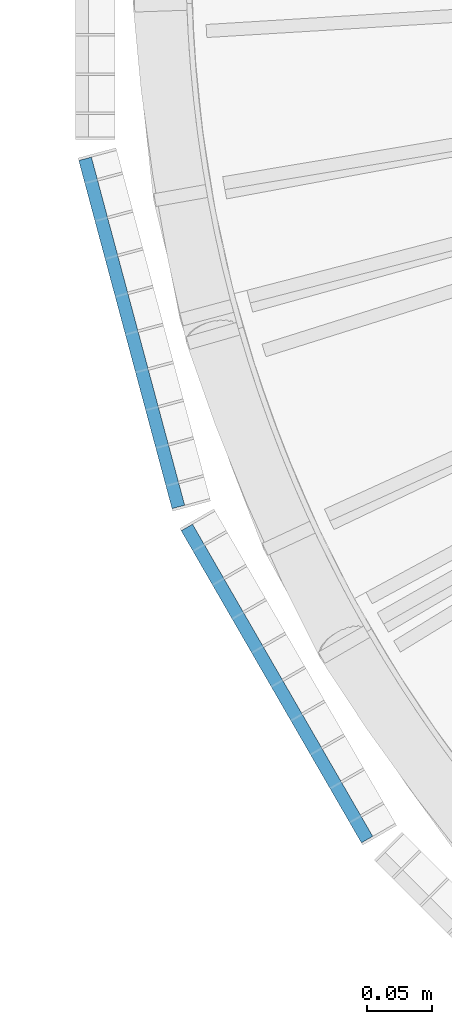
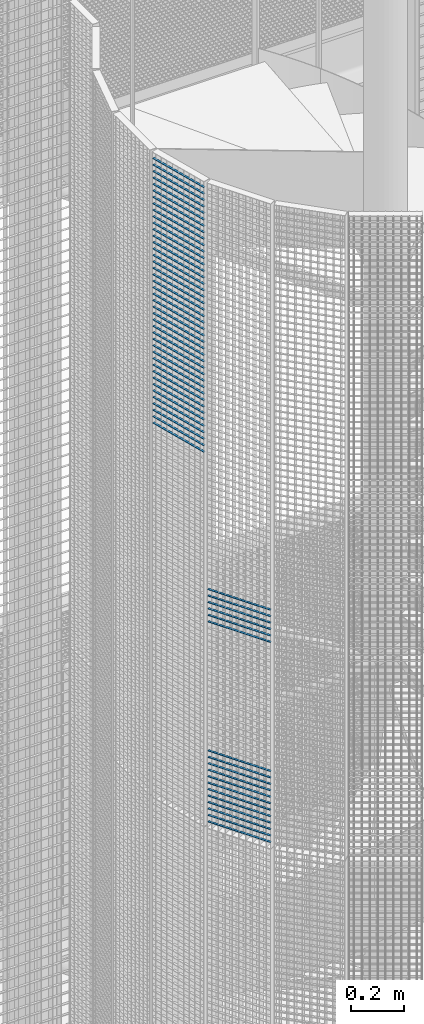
# One storey, part 106 of 1148: 60 beams, 2 elements without a shape of their own.
"""IFC2X3 building model written with IfcOpenShell, lengths in millimetres."""

from ifc_helpers import new_model, si_unit, frame, origin_with_axes, origin_2d_with_axis, place, context, subcontext, project, spatial, rectangle, extrude, material, type_object, element, aggregate, save


model = new_model("IFC2X3")

# Units and contexts
model_context = context("Model", 3, precision=1e-05, world=origin_with_axes())
body_context = subcontext(model_context, "Body", "Model", "MODEL_VIEW")
ifc_project = project(units=[si_unit("LENGTHUNIT", "METRE", prefix="MILLI"), si_unit("AREAUNIT", "SQUARE_METRE"), si_unit("VOLUMEUNIT", "CUBIC_METRE"), si_unit("MASSUNIT", "GRAM", prefix="KILO"), si_unit("TIMEUNIT", "SECOND"), si_unit("PLANEANGLEUNIT", "RADIAN"), si_unit("SOLIDANGLEUNIT", "STERADIAN"), si_unit("THERMODYNAMICTEMPERATUREUNIT", "DEGREE_CELSIUS"), si_unit("LUMINOUSINTENSITYUNIT", "LUMEN")], contexts=[model_context])

# Site, building, storey
site_placement = place(None, origin_with_axes())
site = spatial("IfcSite", under=ifc_project, at=site_placement, Name="Undefined", CompositionType="ELEMENT")
building_placement = place(site_placement, origin_with_axes())
building = spatial("IfcBuilding", under=site, at=building_placement, Name="Undefined", CompositionType="ELEMENT")
storey_placement = place(building_placement, origin_with_axes())
storey = spatial("IfcBuildingStorey", under=building, at=storey_placement, Name="Undefined", CompositionType="ELEMENT", Elevation=0.0)

# Assembly, beams
assembly_1_placement = place(storey_placement, origin_with_axes())
assembly_1 = element("IfcElementAssembly", 1, at=assembly_1_placement, inside=storey, Name="BORDURE", AssemblyPlace="NOTDEFINED", PredefinedType="NOTDEFINED")
ifc_material = material(Name="STEEL/S235JR")
beam_type = type_object("IfcBeamType", Name="PL2*10", PredefinedType="NOTDEFINED")
beam_1_placement = place(assembly_1_placement, frame((-1033.29996828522, -437.231955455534, 15360.0), z_axis=(-0.866025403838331, -0.499999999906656, 0.0), x_axis=(0.499999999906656, -0.866025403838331, 0.0)))
beam_1 = element("IfcBeam", 2, at=beam_1_placement, type_object=beam_type, material=ifc_material, Name="ENTRETOISE", context=body_context, shape_type="SweptSolid", body=[
    extrude(rectangle(XDim=2.0, YDim=10.0, at=origin_2d_with_axis()), frame((275.999999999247, 9.09494701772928e-13, 1.53210777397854e-14), z_axis=(-1.0, 0.0, 0.0), x_axis=(0.0, -1.0, 0.0)), (0.0, 0.0, 1.0), 276.0),
])
beam_2_placement = place(assembly_1_placement, frame((-1033.29996828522, -437.231955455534, 15330.0), z_axis=(-0.866025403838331, -0.499999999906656, 0.0), x_axis=(0.499999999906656, -0.866025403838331, 0.0)))
beam_2 = element("IfcBeam", 3, at=beam_2_placement, type_object=beam_type, material=ifc_material, Name="ENTRETOISE", context=body_context, shape_type="SweptSolid", body=[
    extrude(rectangle(XDim=2.0, YDim=10.0, at=origin_2d_with_axis()), frame((275.999999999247, 9.09494701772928e-13, 1.53210777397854e-14), z_axis=(-1.0, 0.0, 0.0), x_axis=(0.0, -1.0, 0.0)), (0.0, 0.0, 1.0), 276.0),
])
beam_3_placement = place(assembly_1_placement, frame((-1033.29996828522, -437.231955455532, 15960.0), z_axis=(-0.866025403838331, -0.499999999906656, 0.0), x_axis=(0.499999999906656, -0.866025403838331, 0.0)))
beam_3 = element("IfcBeam", 4, at=beam_3_placement, type_object=beam_type, material=ifc_material, Name="ENTRETOISE", context=body_context, shape_type="SweptSolid", body=[
    extrude(rectangle(XDim=2.0, YDim=10.0, at=origin_2d_with_axis()), frame((275.999999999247, 9.09494701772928e-13, 1.53210777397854e-14), z_axis=(-1.0, 0.0, 0.0), x_axis=(0.0, -1.0, 0.0)), (0.0, 0.0, 1.0), 276.0),
])
beam_4_placement = place(assembly_1_placement, frame((-1033.29996828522, -437.231955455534, 15300.0), z_axis=(-0.866025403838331, -0.499999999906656, 0.0), x_axis=(0.499999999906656, -0.866025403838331, 0.0)))
beam_4 = element("IfcBeam", 5, at=beam_4_placement, type_object=beam_type, material=ifc_material, Name="ENTRETOISE", context=body_context, shape_type="SweptSolid", body=[
    extrude(rectangle(XDim=2.0, YDim=10.0, at=origin_2d_with_axis()), frame((275.999999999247, 9.09494701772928e-13, 1.53210777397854e-14), z_axis=(-1.0, 0.0, 0.0), x_axis=(0.0, -1.0, 0.0)), (0.0, 0.0, 1.0), 276.0),
])
beam_5_placement = place(assembly_1_placement, frame((-1033.29996828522, -437.231955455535, 15270.0), z_axis=(-0.866025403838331, -0.499999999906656, 0.0), x_axis=(0.499999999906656, -0.866025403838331, 0.0)))
beam_5 = element("IfcBeam", 6, at=beam_5_placement, type_object=beam_type, material=ifc_material, Name="ENTRETOISE", context=body_context, shape_type="SweptSolid", body=[
    extrude(rectangle(XDim=2.0, YDim=10.0, at=origin_2d_with_axis()), frame((275.999999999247, 9.09494701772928e-13, 1.53210777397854e-14), z_axis=(-1.0, 0.0, 0.0), x_axis=(0.0, -1.0, 0.0)), (0.0, 0.0, 1.0), 276.0),
])
beam_6_placement = place(assembly_1_placement, frame((-1033.29996828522, -437.231955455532, 15990.0), z_axis=(-0.866025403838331, -0.499999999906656, 0.0), x_axis=(0.499999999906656, -0.866025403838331, 0.0)))
beam_6 = element("IfcBeam", 7, at=beam_6_placement, type_object=beam_type, material=ifc_material, Name="ENTRETOISE", context=body_context, shape_type="SweptSolid", body=[
    extrude(rectangle(XDim=2.0, YDim=10.0, at=origin_2d_with_axis()), frame((275.999999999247, 9.09494701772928e-13, 1.53210777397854e-14), z_axis=(-1.0, 0.0, 0.0), x_axis=(0.0, -1.0, 0.0)), (0.0, 0.0, 1.0), 276.0),
])
beam_7_placement = place(assembly_1_placement, frame((-1033.29996828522, -437.231955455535, 15240.0), z_axis=(-0.866025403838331, -0.499999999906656, 0.0), x_axis=(0.499999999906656, -0.866025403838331, 0.0)))
beam_7 = element("IfcBeam", 8, at=beam_7_placement, type_object=beam_type, material=ifc_material, Name="ENTRETOISE", context=body_context, shape_type="SweptSolid", body=[
    extrude(rectangle(XDim=2.0, YDim=10.0, at=origin_2d_with_axis()), frame((275.999999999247, 9.09494701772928e-13, 1.53210777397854e-14), z_axis=(-1.0, 0.0, 0.0), x_axis=(0.0, -1.0, 0.0)), (0.0, 0.0, 1.0), 276.0),
])
beam_8_placement = place(assembly_1_placement, frame((-1033.29996828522, -437.231955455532, 16020.0), z_axis=(-0.866025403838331, -0.499999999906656, 0.0), x_axis=(0.499999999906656, -0.866025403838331, 0.0)))
beam_8 = element("IfcBeam", 9, at=beam_8_placement, type_object=beam_type, material=ifc_material, Name="ENTRETOISE", context=body_context, shape_type="SweptSolid", body=[
    extrude(rectangle(XDim=2.0, YDim=10.0, at=origin_2d_with_axis()), frame((275.999999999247, 9.09494701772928e-13, 1.53210777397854e-14), z_axis=(-1.0, 0.0, 0.0), x_axis=(0.0, -1.0, 0.0)), (0.0, 0.0, 1.0), 276.0),
])
beam_9_placement = place(assembly_1_placement, frame((-1033.29996828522, -437.231955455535, 15210.0), z_axis=(-0.866025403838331, -0.499999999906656, 0.0), x_axis=(0.499999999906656, -0.866025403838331, 0.0)))
beam_9 = element("IfcBeam", 10, at=beam_9_placement, type_object=beam_type, material=ifc_material, Name="ENTRETOISE", context=body_context, shape_type="SweptSolid", body=[
    extrude(rectangle(XDim=2.0, YDim=10.0, at=origin_2d_with_axis()), frame((275.999999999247, 9.09494701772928e-13, 1.53210777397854e-14), z_axis=(-1.0, 0.0, 0.0), x_axis=(0.0, -1.0, 0.0)), (0.0, 0.0, 1.0), 276.0),
])
beam_10_placement = place(assembly_1_placement, frame((-1033.29996828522, -437.231955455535, 15180.0), z_axis=(-0.866025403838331, -0.499999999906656, 0.0), x_axis=(0.499999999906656, -0.866025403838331, 0.0)))
beam_10 = element("IfcBeam", 11, at=beam_10_placement, type_object=beam_type, material=ifc_material, Name="ENTRETOISE", context=body_context, shape_type="SweptSolid", body=[
    extrude(rectangle(XDim=2.0, YDim=10.0, at=origin_2d_with_axis()), frame((275.999999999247, 9.09494701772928e-13, 1.53210777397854e-14), z_axis=(-1.0, 0.0, 0.0), x_axis=(0.0, -1.0, 0.0)), (0.0, 0.0, 1.0), 276.0),
])
beam_11_placement = place(assembly_1_placement, frame((-1033.29996828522, -437.231955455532, 16050.0), z_axis=(-0.866025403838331, -0.499999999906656, 0.0), x_axis=(0.499999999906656, -0.866025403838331, 0.0)))
beam_11 = element("IfcBeam", 12, at=beam_11_placement, type_object=beam_type, material=ifc_material, Name="ENTRETOISE", context=body_context, shape_type="SweptSolid", body=[
    extrude(rectangle(XDim=2.0, YDim=10.0, at=origin_2d_with_axis()), frame((275.999999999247, 9.09494701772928e-13, 1.53210777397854e-14), z_axis=(-1.0, 0.0, 0.0), x_axis=(0.0, -1.0, 0.0)), (0.0, 0.0, 1.0), 276.0),
])
beam_12_placement = place(assembly_1_placement, frame((-1033.29996828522, -437.231955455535, 15150.0), z_axis=(-0.866025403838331, -0.499999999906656, 0.0), x_axis=(0.499999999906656, -0.866025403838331, 0.0)))
beam_12 = element("IfcBeam", 13, at=beam_12_placement, type_object=beam_type, material=ifc_material, Name="ENTRETOISE", context=body_context, shape_type="SweptSolid", body=[
    extrude(rectangle(XDim=2.0, YDim=10.0, at=origin_2d_with_axis()), frame((275.999999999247, 9.09494701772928e-13, 1.53210777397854e-14), z_axis=(-1.0, 0.0, 0.0), x_axis=(0.0, -1.0, 0.0)), (0.0, 0.0, 1.0), 276.0),
])
beam_13_placement = place(assembly_1_placement, frame((-1033.29996828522, -437.231955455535, 15120.0), z_axis=(-0.866025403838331, -0.499999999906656, 0.0), x_axis=(0.499999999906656, -0.866025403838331, 0.0)))
beam_13 = element("IfcBeam", 14, at=beam_13_placement, type_object=beam_type, material=ifc_material, Name="ENTRETOISE", context=body_context, shape_type="SweptSolid", body=[
    extrude(rectangle(XDim=2.0, YDim=10.0, at=origin_2d_with_axis()), frame((275.999999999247, 9.09494701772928e-13, 1.53210777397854e-14), z_axis=(-1.0, 0.0, 0.0), x_axis=(0.0, -1.0, 0.0)), (0.0, 0.0, 1.0), 276.0),
])
beam_14_placement = place(assembly_1_placement, frame((-1033.29996828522, -437.231955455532, 16080.0), z_axis=(-0.866025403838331, -0.499999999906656, 0.0), x_axis=(0.499999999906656, -0.866025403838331, 0.0)))
beam_14 = element("IfcBeam", 15, at=beam_14_placement, type_object=beam_type, material=ifc_material, Name="ENTRETOISE", context=body_context, shape_type="SweptSolid", body=[
    extrude(rectangle(XDim=2.0, YDim=10.0, at=origin_2d_with_axis()), frame((275.999999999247, 9.09494701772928e-13, 1.53210777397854e-14), z_axis=(-1.0, 0.0, 0.0), x_axis=(0.0, -1.0, 0.0)), (0.0, 0.0, 1.0), 276.0),
])
beam_15_placement = place(assembly_1_placement, frame((-1033.29996828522, -437.231955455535, 15090.0), z_axis=(-0.866025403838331, -0.499999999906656, 0.0), x_axis=(0.499999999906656, -0.866025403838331, 0.0)))
beam_15 = element("IfcBeam", 16, at=beam_15_placement, type_object=beam_type, material=ifc_material, Name="ENTRETOISE", context=body_context, shape_type="SweptSolid", body=[
    extrude(rectangle(XDim=2.0, YDim=10.0, at=origin_2d_with_axis()), frame((275.999999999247, 9.09494701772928e-13, 1.53210777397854e-14), z_axis=(-1.0, 0.0, 0.0), x_axis=(0.0, -1.0, 0.0)), (0.0, 0.0, 1.0), 276.0),
])
beam_16_placement = place(assembly_1_placement, frame((-1033.29996828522, -437.231955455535, 15060.0), z_axis=(-0.866025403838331, -0.499999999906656, 0.0), x_axis=(0.499999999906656, -0.866025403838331, 0.0)))
beam_16 = element("IfcBeam", 17, at=beam_16_placement, type_object=beam_type, material=ifc_material, Name="ENTRETOISE", context=body_context, shape_type="SweptSolid", body=[
    extrude(rectangle(XDim=2.0, YDim=10.0, at=origin_2d_with_axis()), frame((275.999999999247, 9.09494701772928e-13, 1.53210777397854e-14), z_axis=(-1.0, 0.0, 0.0), x_axis=(0.0, -1.0, 0.0)), (0.0, 0.0, 1.0), 276.0),
])
beam_17_placement = place(assembly_1_placement, frame((-1033.29996828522, -437.231955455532, 16110.0), z_axis=(-0.866025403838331, -0.499999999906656, 0.0), x_axis=(0.499999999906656, -0.866025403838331, 0.0)))
beam_17 = element("IfcBeam", 18, at=beam_17_placement, type_object=beam_type, material=ifc_material, Name="ENTRETOISE", context=body_context, shape_type="SweptSolid", body=[
    extrude(rectangle(XDim=2.0, YDim=10.0, at=origin_2d_with_axis()), frame((275.999999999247, 9.09494701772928e-13, 1.53210777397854e-14), z_axis=(-1.0, 0.0, 0.0), x_axis=(0.0, -1.0, 0.0)), (0.0, 0.0, 1.0), 276.0),
])
beam_18_placement = place(assembly_1_placement, frame((-1033.29996828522, -437.231955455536, 15030.0), z_axis=(-0.866025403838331, -0.499999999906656, 0.0), x_axis=(0.499999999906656, -0.866025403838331, 0.0)))
beam_18 = element("IfcBeam", 19, at=beam_18_placement, type_object=beam_type, material=ifc_material, Name="ENTRETOISE", context=body_context, shape_type="SweptSolid", body=[
    extrude(rectangle(XDim=2.0, YDim=10.0, at=origin_2d_with_axis()), frame((275.999999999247, 9.09494701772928e-13, 1.53210777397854e-14), z_axis=(-1.0, 0.0, 0.0), x_axis=(0.0, -1.0, 0.0)), (0.0, 0.0, 1.0), 276.0),
])
aggregate(assembly_1, [beam_1, beam_2, beam_3, beam_4, beam_5, beam_6, beam_7, beam_8, beam_9, beam_10, beam_11, beam_12, beam_13, beam_14, beam_15, beam_16, beam_17, beam_18])

assembly_2_placement = place(storey_placement, origin_with_axes())
assembly_2 = element("IfcElementAssembly", 20, at=assembly_2_placement, inside=storey, Name="BORDURE", AssemblyPlace="NOTDEFINED", PredefinedType="NOTDEFINED")
beam_19_placement = place(assembly_2_placement, frame((-1111.25508286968, -154.895926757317, 17970.0), z_axis=(-0.965925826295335, -0.258819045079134, 0.0), x_axis=(0.258819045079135, -0.965925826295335, 0.0)))
beam_19 = element("IfcBeam", 21, at=beam_19_placement, type_object=beam_type, material=ifc_material, Name="ENTRETOISE", context=body_context, shape_type="SweptSolid", body=[
    extrude(rectangle(XDim=2.0, YDim=10.0, at=origin_2d_with_axis()), frame((275.999999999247, 9.09494701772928e-13, 1.53210777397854e-14), z_axis=(-1.0, 0.0, 0.0), x_axis=(0.0, -1.0, 0.0)), (0.0, 0.0, 1.0), 276.0),
])
beam_20_placement = place(assembly_2_placement, frame((-1111.25508286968, -154.895926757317, 17940.0), z_axis=(-0.965925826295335, -0.258819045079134, 0.0), x_axis=(0.258819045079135, -0.965925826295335, 0.0)))
beam_20 = element("IfcBeam", 22, at=beam_20_placement, type_object=beam_type, material=ifc_material, Name="ENTRETOISE", context=body_context, shape_type="SweptSolid", body=[
    extrude(rectangle(XDim=2.0, YDim=10.0, at=origin_2d_with_axis()), frame((275.999999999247, 9.09494701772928e-13, 1.53210777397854e-14), z_axis=(-1.0, 0.0, 0.0), x_axis=(0.0, -1.0, 0.0)), (0.0, 0.0, 1.0), 276.0),
])
beam_21_placement = place(assembly_2_placement, frame((-1111.25508286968, -154.895926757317, 17910.0), z_axis=(-0.965925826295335, -0.258819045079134, 0.0), x_axis=(0.258819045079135, -0.965925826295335, 0.0)))
beam_21 = element("IfcBeam", 23, at=beam_21_placement, type_object=beam_type, material=ifc_material, Name="ENTRETOISE", context=body_context, shape_type="SweptSolid", body=[
    extrude(rectangle(XDim=2.0, YDim=10.0, at=origin_2d_with_axis()), frame((275.999999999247, 9.09494701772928e-13, 1.53210777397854e-14), z_axis=(-1.0, 0.0, 0.0), x_axis=(0.0, -1.0, 0.0)), (0.0, 0.0, 1.0), 276.0),
])
beam_22_placement = place(assembly_2_placement, frame((-1111.25508286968, -154.895926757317, 17880.0), z_axis=(-0.965925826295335, -0.258819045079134, 0.0), x_axis=(0.258819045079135, -0.965925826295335, 0.0)))
beam_22 = element("IfcBeam", 24, at=beam_22_placement, type_object=beam_type, material=ifc_material, Name="ENTRETOISE", context=body_context, shape_type="SweptSolid", body=[
    extrude(rectangle(XDim=2.0, YDim=10.0, at=origin_2d_with_axis()), frame((275.999999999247, 9.09494701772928e-13, 1.53210777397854e-14), z_axis=(-1.0, 0.0, 0.0), x_axis=(0.0, -1.0, 0.0)), (0.0, 0.0, 1.0), 276.0),
])
beam_23_placement = place(assembly_2_placement, frame((-1111.25508286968, -154.895926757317, 17850.0), z_axis=(-0.965925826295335, -0.258819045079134, 0.0), x_axis=(0.258819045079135, -0.965925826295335, 0.0)))
beam_23 = element("IfcBeam", 25, at=beam_23_placement, type_object=beam_type, material=ifc_material, Name="ENTRETOISE", context=body_context, shape_type="SweptSolid", body=[
    extrude(rectangle(XDim=2.0, YDim=10.0, at=origin_2d_with_axis()), frame((275.999999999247, 9.09494701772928e-13, 1.53210777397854e-14), z_axis=(-1.0, 0.0, 0.0), x_axis=(0.0, -1.0, 0.0)), (0.0, 0.0, 1.0), 276.0),
])
beam_24_placement = place(assembly_2_placement, frame((-1111.25508286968, -154.895926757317, 17820.0), z_axis=(-0.965925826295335, -0.258819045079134, 0.0), x_axis=(0.258819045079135, -0.965925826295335, 0.0)))
beam_24 = element("IfcBeam", 26, at=beam_24_placement, type_object=beam_type, material=ifc_material, Name="ENTRETOISE", context=body_context, shape_type="SweptSolid", body=[
    extrude(rectangle(XDim=2.0, YDim=10.0, at=origin_2d_with_axis()), frame((275.999999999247, 9.09494701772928e-13, 1.53210777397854e-14), z_axis=(-1.0, 0.0, 0.0), x_axis=(0.0, -1.0, 0.0)), (0.0, 0.0, 1.0), 276.0),
])
beam_25_placement = place(assembly_2_placement, frame((-1111.25508286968, -154.895926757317, 17790.0), z_axis=(-0.965925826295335, -0.258819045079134, 0.0), x_axis=(0.258819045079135, -0.965925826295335, 0.0)))
beam_25 = element("IfcBeam", 27, at=beam_25_placement, type_object=beam_type, material=ifc_material, Name="ENTRETOISE", context=body_context, shape_type="SweptSolid", body=[
    extrude(rectangle(XDim=2.0, YDim=10.0, at=origin_2d_with_axis()), frame((275.999999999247, 9.09494701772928e-13, 1.53210777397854e-14), z_axis=(-1.0, 0.0, 0.0), x_axis=(0.0, -1.0, 0.0)), (0.0, 0.0, 1.0), 276.0),
])
beam_26_placement = place(assembly_2_placement, frame((-1111.25508286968, -154.895926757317, 17760.0), z_axis=(-0.965925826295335, -0.258819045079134, 0.0), x_axis=(0.258819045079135, -0.965925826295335, 0.0)))
beam_26 = element("IfcBeam", 28, at=beam_26_placement, type_object=beam_type, material=ifc_material, Name="ENTRETOISE", context=body_context, shape_type="SweptSolid", body=[
    extrude(rectangle(XDim=2.0, YDim=10.0, at=origin_2d_with_axis()), frame((275.999999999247, 9.09494701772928e-13, 1.53210777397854e-14), z_axis=(-1.0, 0.0, 0.0), x_axis=(0.0, -1.0, 0.0)), (0.0, 0.0, 1.0), 276.0),
])
beam_27_placement = place(assembly_2_placement, frame((-1111.25508286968, -154.895926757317, 17730.0), z_axis=(-0.965925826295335, -0.258819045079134, 0.0), x_axis=(0.258819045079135, -0.965925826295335, 0.0)))
beam_27 = element("IfcBeam", 29, at=beam_27_placement, type_object=beam_type, material=ifc_material, Name="ENTRETOISE", context=body_context, shape_type="SweptSolid", body=[
    extrude(rectangle(XDim=2.0, YDim=10.0, at=origin_2d_with_axis()), frame((275.999999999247, 9.09494701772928e-13, 1.53210777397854e-14), z_axis=(-1.0, 0.0, 0.0), x_axis=(0.0, -1.0, 0.0)), (0.0, 0.0, 1.0), 276.0),
])
beam_28_placement = place(assembly_2_placement, frame((-1111.25508286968, -154.895926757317, 17700.0), z_axis=(-0.965925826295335, -0.258819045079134, 0.0), x_axis=(0.258819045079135, -0.965925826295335, 0.0)))
beam_28 = element("IfcBeam", 30, at=beam_28_placement, type_object=beam_type, material=ifc_material, Name="ENTRETOISE", context=body_context, shape_type="SweptSolid", body=[
    extrude(rectangle(XDim=2.0, YDim=10.0, at=origin_2d_with_axis()), frame((275.999999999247, 9.09494701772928e-13, 1.53210777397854e-14), z_axis=(-1.0, 0.0, 0.0), x_axis=(0.0, -1.0, 0.0)), (0.0, 0.0, 1.0), 276.0),
])
beam_29_placement = place(assembly_2_placement, frame((-1111.25508286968, -154.895926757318, 17670.0), z_axis=(-0.965925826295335, -0.258819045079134, 0.0), x_axis=(0.258819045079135, -0.965925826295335, 0.0)))
beam_29 = element("IfcBeam", 31, at=beam_29_placement, type_object=beam_type, material=ifc_material, Name="ENTRETOISE", context=body_context, shape_type="SweptSolid", body=[
    extrude(rectangle(XDim=2.0, YDim=10.0, at=origin_2d_with_axis()), frame((275.999999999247, 9.09494701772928e-13, 1.53210777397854e-14), z_axis=(-1.0, 0.0, 0.0), x_axis=(0.0, -1.0, 0.0)), (0.0, 0.0, 1.0), 276.0),
])
beam_30_placement = place(assembly_2_placement, frame((-1111.25508286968, -154.895926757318, 17640.0), z_axis=(-0.965925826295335, -0.258819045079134, 0.0), x_axis=(0.258819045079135, -0.965925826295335, 0.0)))
beam_30 = element("IfcBeam", 32, at=beam_30_placement, type_object=beam_type, material=ifc_material, Name="ENTRETOISE", context=body_context, shape_type="SweptSolid", body=[
    extrude(rectangle(XDim=2.0, YDim=10.0, at=origin_2d_with_axis()), frame((275.999999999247, 9.09494701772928e-13, 1.53210777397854e-14), z_axis=(-1.0, 0.0, 0.0), x_axis=(0.0, -1.0, 0.0)), (0.0, 0.0, 1.0), 276.0),
])
beam_31_placement = place(assembly_2_placement, frame((-1111.25508286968, -154.895926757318, 17610.0), z_axis=(-0.965925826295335, -0.258819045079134, 0.0), x_axis=(0.258819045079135, -0.965925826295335, 0.0)))
beam_31 = element("IfcBeam", 33, at=beam_31_placement, type_object=beam_type, material=ifc_material, Name="ENTRETOISE", context=body_context, shape_type="SweptSolid", body=[
    extrude(rectangle(XDim=2.0, YDim=10.0, at=origin_2d_with_axis()), frame((275.999999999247, 9.09494701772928e-13, 1.53210777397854e-14), z_axis=(-1.0, 0.0, 0.0), x_axis=(0.0, -1.0, 0.0)), (0.0, 0.0, 1.0), 276.0),
])
beam_32_placement = place(assembly_2_placement, frame((-1111.25508286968, -154.895926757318, 17580.0), z_axis=(-0.965925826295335, -0.258819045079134, 0.0), x_axis=(0.258819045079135, -0.965925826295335, 0.0)))
beam_32 = element("IfcBeam", 34, at=beam_32_placement, type_object=beam_type, material=ifc_material, Name="ENTRETOISE", context=body_context, shape_type="SweptSolid", body=[
    extrude(rectangle(XDim=2.0, YDim=10.0, at=origin_2d_with_axis()), frame((275.999999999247, 9.09494701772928e-13, 1.53210777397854e-14), z_axis=(-1.0, 0.0, 0.0), x_axis=(0.0, -1.0, 0.0)), (0.0, 0.0, 1.0), 276.0),
])
beam_33_placement = place(assembly_2_placement, frame((-1111.25508286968, -154.895926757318, 17550.0), z_axis=(-0.965925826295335, -0.258819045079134, 0.0), x_axis=(0.258819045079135, -0.965925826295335, 0.0)))
beam_33 = element("IfcBeam", 35, at=beam_33_placement, type_object=beam_type, material=ifc_material, Name="ENTRETOISE", context=body_context, shape_type="SweptSolid", body=[
    extrude(rectangle(XDim=2.0, YDim=10.0, at=origin_2d_with_axis()), frame((275.999999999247, 9.09494701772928e-13, 1.53210777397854e-14), z_axis=(-1.0, 0.0, 0.0), x_axis=(0.0, -1.0, 0.0)), (0.0, 0.0, 1.0), 276.0),
])
beam_34_placement = place(assembly_2_placement, frame((-1111.25508286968, -154.895926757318, 17520.0), z_axis=(-0.965925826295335, -0.258819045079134, 0.0), x_axis=(0.258819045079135, -0.965925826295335, 0.0)))
beam_34 = element("IfcBeam", 36, at=beam_34_placement, type_object=beam_type, material=ifc_material, Name="ENTRETOISE", context=body_context, shape_type="SweptSolid", body=[
    extrude(rectangle(XDim=2.0, YDim=10.0, at=origin_2d_with_axis()), frame((275.999999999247, 9.09494701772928e-13, 1.53210777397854e-14), z_axis=(-1.0, 0.0, 0.0), x_axis=(0.0, -1.0, 0.0)), (0.0, 0.0, 1.0), 276.0),
])
beam_35_placement = place(assembly_2_placement, frame((-1111.25508286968, -154.895926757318, 17490.0), z_axis=(-0.965925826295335, -0.258819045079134, 0.0), x_axis=(0.258819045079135, -0.965925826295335, 0.0)))
beam_35 = element("IfcBeam", 37, at=beam_35_placement, type_object=beam_type, material=ifc_material, Name="ENTRETOISE", context=body_context, shape_type="SweptSolid", body=[
    extrude(rectangle(XDim=2.0, YDim=10.0, at=origin_2d_with_axis()), frame((275.999999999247, 9.09494701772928e-13, 1.53210777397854e-14), z_axis=(-1.0, 0.0, 0.0), x_axis=(0.0, -1.0, 0.0)), (0.0, 0.0, 1.0), 276.0),
])
beam_36_placement = place(assembly_2_placement, frame((-1111.25508286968, -154.895926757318, 17460.0), z_axis=(-0.965925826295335, -0.258819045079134, 0.0), x_axis=(0.258819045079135, -0.965925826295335, 0.0)))
beam_36 = element("IfcBeam", 38, at=beam_36_placement, type_object=beam_type, material=ifc_material, Name="ENTRETOISE", context=body_context, shape_type="SweptSolid", body=[
    extrude(rectangle(XDim=2.0, YDim=10.0, at=origin_2d_with_axis()), frame((275.999999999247, 9.09494701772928e-13, 1.53210777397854e-14), z_axis=(-1.0, 0.0, 0.0), x_axis=(0.0, -1.0, 0.0)), (0.0, 0.0, 1.0), 276.0),
])
beam_37_placement = place(assembly_2_placement, frame((-1111.25508286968, -154.895926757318, 17430.0), z_axis=(-0.965925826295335, -0.258819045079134, 0.0), x_axis=(0.258819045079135, -0.965925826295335, 0.0)))
beam_37 = element("IfcBeam", 39, at=beam_37_placement, type_object=beam_type, material=ifc_material, Name="ENTRETOISE", context=body_context, shape_type="SweptSolid", body=[
    extrude(rectangle(XDim=2.0, YDim=10.0, at=origin_2d_with_axis()), frame((275.999999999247, 9.09494701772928e-13, 1.53210777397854e-14), z_axis=(-1.0, 0.0, 0.0), x_axis=(0.0, -1.0, 0.0)), (0.0, 0.0, 1.0), 276.0),
])
beam_38_placement = place(assembly_2_placement, frame((-1111.25508286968, -154.895926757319, 17400.0), z_axis=(-0.965925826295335, -0.258819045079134, 0.0), x_axis=(0.258819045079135, -0.965925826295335, 0.0)))
beam_38 = element("IfcBeam", 40, at=beam_38_placement, type_object=beam_type, material=ifc_material, Name="ENTRETOISE", context=body_context, shape_type="SweptSolid", body=[
    extrude(rectangle(XDim=2.0, YDim=10.0, at=origin_2d_with_axis()), frame((275.999999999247, 9.09494701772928e-13, 1.53210777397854e-14), z_axis=(-1.0, 0.0, 0.0), x_axis=(0.0, -1.0, 0.0)), (0.0, 0.0, 1.0), 276.0),
])
beam_39_placement = place(assembly_2_placement, frame((-1111.25508286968, -154.895926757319, 17370.0), z_axis=(-0.965925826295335, -0.258819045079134, 0.0), x_axis=(0.258819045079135, -0.965925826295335, 0.0)))
beam_39 = element("IfcBeam", 41, at=beam_39_placement, type_object=beam_type, material=ifc_material, Name="ENTRETOISE", context=body_context, shape_type="SweptSolid", body=[
    extrude(rectangle(XDim=2.0, YDim=10.0, at=origin_2d_with_axis()), frame((275.999999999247, 9.09494701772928e-13, 1.53210777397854e-14), z_axis=(-1.0, 0.0, 0.0), x_axis=(0.0, -1.0, 0.0)), (0.0, 0.0, 1.0), 276.0),
])
beam_40_placement = place(assembly_2_placement, frame((-1111.25508286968, -154.895926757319, 17340.0), z_axis=(-0.965925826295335, -0.258819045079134, 0.0), x_axis=(0.258819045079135, -0.965925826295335, 0.0)))
beam_40 = element("IfcBeam", 42, at=beam_40_placement, type_object=beam_type, material=ifc_material, Name="ENTRETOISE", context=body_context, shape_type="SweptSolid", body=[
    extrude(rectangle(XDim=2.0, YDim=10.0, at=origin_2d_with_axis()), frame((275.999999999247, 9.09494701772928e-13, 1.53210777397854e-14), z_axis=(-1.0, 0.0, 0.0), x_axis=(0.0, -1.0, 0.0)), (0.0, 0.0, 1.0), 276.0),
])
beam_41_placement = place(assembly_2_placement, frame((-1111.25508286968, -154.895926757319, 17310.0), z_axis=(-0.965925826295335, -0.258819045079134, 0.0), x_axis=(0.258819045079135, -0.965925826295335, 0.0)))
beam_41 = element("IfcBeam", 43, at=beam_41_placement, type_object=beam_type, material=ifc_material, Name="ENTRETOISE", context=body_context, shape_type="SweptSolid", body=[
    extrude(rectangle(XDim=2.0, YDim=10.0, at=origin_2d_with_axis()), frame((275.999999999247, 9.09494701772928e-13, 1.53210777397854e-14), z_axis=(-1.0, 0.0, 0.0), x_axis=(0.0, -1.0, 0.0)), (0.0, 0.0, 1.0), 276.0),
])
beam_42_placement = place(assembly_2_placement, frame((-1111.25508286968, -154.895926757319, 17280.0), z_axis=(-0.965925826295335, -0.258819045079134, 0.0), x_axis=(0.258819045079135, -0.965925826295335, 0.0)))
beam_42 = element("IfcBeam", 44, at=beam_42_placement, type_object=beam_type, material=ifc_material, Name="ENTRETOISE", context=body_context, shape_type="SweptSolid", body=[
    extrude(rectangle(XDim=2.0, YDim=10.0, at=origin_2d_with_axis()), frame((275.999999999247, 9.09494701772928e-13, 1.53210777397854e-14), z_axis=(-1.0, 0.0, 0.0), x_axis=(0.0, -1.0, 0.0)), (0.0, 0.0, 1.0), 276.0),
])
beam_43_placement = place(assembly_2_placement, frame((-1111.25508286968, -154.895926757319, 17250.0), z_axis=(-0.965925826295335, -0.258819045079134, 0.0), x_axis=(0.258819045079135, -0.965925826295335, 0.0)))
beam_43 = element("IfcBeam", 45, at=beam_43_placement, type_object=beam_type, material=ifc_material, Name="ENTRETOISE", context=body_context, shape_type="SweptSolid", body=[
    extrude(rectangle(XDim=2.0, YDim=10.0, at=origin_2d_with_axis()), frame((275.999999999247, 9.09494701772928e-13, 1.53210777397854e-14), z_axis=(-1.0, 0.0, 0.0), x_axis=(0.0, -1.0, 0.0)), (0.0, 0.0, 1.0), 276.0),
])
beam_44_placement = place(assembly_2_placement, frame((-1111.25508286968, -154.895926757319, 17220.0), z_axis=(-0.965925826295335, -0.258819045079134, 0.0), x_axis=(0.258819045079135, -0.965925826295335, 0.0)))
beam_44 = element("IfcBeam", 46, at=beam_44_placement, type_object=beam_type, material=ifc_material, Name="ENTRETOISE", context=body_context, shape_type="SweptSolid", body=[
    extrude(rectangle(XDim=2.0, YDim=10.0, at=origin_2d_with_axis()), frame((275.999999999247, 9.09494701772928e-13, 1.53210777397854e-14), z_axis=(-1.0, 0.0, 0.0), x_axis=(0.0, -1.0, 0.0)), (0.0, 0.0, 1.0), 276.0),
])
beam_45_placement = place(assembly_2_placement, frame((-1111.25508286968, -154.895926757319, 17190.0), z_axis=(-0.965925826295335, -0.258819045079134, 0.0), x_axis=(0.258819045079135, -0.965925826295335, 0.0)))
beam_45 = element("IfcBeam", 47, at=beam_45_placement, type_object=beam_type, material=ifc_material, Name="ENTRETOISE", context=body_context, shape_type="SweptSolid", body=[
    extrude(rectangle(XDim=2.0, YDim=10.0, at=origin_2d_with_axis()), frame((275.999999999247, 9.09494701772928e-13, 1.53210777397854e-14), z_axis=(-1.0, 0.0, 0.0), x_axis=(0.0, -1.0, 0.0)), (0.0, 0.0, 1.0), 276.0),
])
beam_46_placement = place(assembly_2_placement, frame((-1111.25508286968, -154.895926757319, 17160.0), z_axis=(-0.965925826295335, -0.258819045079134, 0.0), x_axis=(0.258819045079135, -0.965925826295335, 0.0)))
beam_46 = element("IfcBeam", 48, at=beam_46_placement, type_object=beam_type, material=ifc_material, Name="ENTRETOISE", context=body_context, shape_type="SweptSolid", body=[
    extrude(rectangle(XDim=2.0, YDim=10.0, at=origin_2d_with_axis()), frame((275.999999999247, 9.09494701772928e-13, 1.53210777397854e-14), z_axis=(-1.0, 0.0, 0.0), x_axis=(0.0, -1.0, 0.0)), (0.0, 0.0, 1.0), 276.0),
])
beam_47_placement = place(assembly_2_placement, frame((-1111.25508286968, -154.89592675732, 17130.0), z_axis=(-0.965925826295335, -0.258819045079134, 0.0), x_axis=(0.258819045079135, -0.965925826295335, 0.0)))
beam_47 = element("IfcBeam", 49, at=beam_47_placement, type_object=beam_type, material=ifc_material, Name="ENTRETOISE", context=body_context, shape_type="SweptSolid", body=[
    extrude(rectangle(XDim=2.0, YDim=10.0, at=origin_2d_with_axis()), frame((275.999999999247, 9.09494701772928e-13, 1.53210777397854e-14), z_axis=(-1.0, 0.0, 0.0), x_axis=(0.0, -1.0, 0.0)), (0.0, 0.0, 1.0), 276.0),
])
beam_48_placement = place(assembly_2_placement, frame((-1111.25508286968, -154.89592675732, 17100.0), z_axis=(-0.965925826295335, -0.258819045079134, 0.0), x_axis=(0.258819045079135, -0.965925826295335, 0.0)))
beam_48 = element("IfcBeam", 50, at=beam_48_placement, type_object=beam_type, material=ifc_material, Name="ENTRETOISE", context=body_context, shape_type="SweptSolid", body=[
    extrude(rectangle(XDim=2.0, YDim=10.0, at=origin_2d_with_axis()), frame((275.999999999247, 9.09494701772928e-13, 1.53210777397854e-14), z_axis=(-1.0, 0.0, 0.0), x_axis=(0.0, -1.0, 0.0)), (0.0, 0.0, 1.0), 276.0),
])
beam_49_placement = place(assembly_2_placement, frame((-1111.25508286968, -154.89592675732, 17070.0), z_axis=(-0.965925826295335, -0.258819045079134, 0.0), x_axis=(0.258819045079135, -0.965925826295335, 0.0)))
beam_49 = element("IfcBeam", 51, at=beam_49_placement, type_object=beam_type, material=ifc_material, Name="ENTRETOISE", context=body_context, shape_type="SweptSolid", body=[
    extrude(rectangle(XDim=2.0, YDim=10.0, at=origin_2d_with_axis()), frame((275.999999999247, 9.09494701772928e-13, 1.53210777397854e-14), z_axis=(-1.0, 0.0, 0.0), x_axis=(0.0, -1.0, 0.0)), (0.0, 0.0, 1.0), 276.0),
])
beam_50_placement = place(assembly_2_placement, frame((-1111.25508286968, -154.89592675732, 17040.0), z_axis=(-0.965925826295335, -0.258819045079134, 0.0), x_axis=(0.258819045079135, -0.965925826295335, 0.0)))
beam_50 = element("IfcBeam", 52, at=beam_50_placement, type_object=beam_type, material=ifc_material, Name="ENTRETOISE", context=body_context, shape_type="SweptSolid", body=[
    extrude(rectangle(XDim=2.0, YDim=10.0, at=origin_2d_with_axis()), frame((275.999999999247, 9.09494701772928e-13, 1.53210777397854e-14), z_axis=(-1.0, 0.0, 0.0), x_axis=(0.0, -1.0, 0.0)), (0.0, 0.0, 1.0), 276.0),
])
beam_51_placement = place(assembly_2_placement, frame((-1111.25508286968, -154.89592675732, 17010.0), z_axis=(-0.965925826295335, -0.258819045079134, 0.0), x_axis=(0.258819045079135, -0.965925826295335, 0.0)))
beam_51 = element("IfcBeam", 53, at=beam_51_placement, type_object=beam_type, material=ifc_material, Name="ENTRETOISE", context=body_context, shape_type="SweptSolid", body=[
    extrude(rectangle(XDim=2.0, YDim=10.0, at=origin_2d_with_axis()), frame((275.999999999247, 9.09494701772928e-13, 1.53210777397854e-14), z_axis=(-1.0, 0.0, 0.0), x_axis=(0.0, -1.0, 0.0)), (0.0, 0.0, 1.0), 276.0),
])
beam_52_placement = place(assembly_2_placement, frame((-1111.25508286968, -154.89592675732, 16980.0), z_axis=(-0.965925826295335, -0.258819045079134, 0.0), x_axis=(0.258819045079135, -0.965925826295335, 0.0)))
beam_52 = element("IfcBeam", 54, at=beam_52_placement, type_object=beam_type, material=ifc_material, Name="ENTRETOISE", context=body_context, shape_type="SweptSolid", body=[
    extrude(rectangle(XDim=2.0, YDim=10.0, at=origin_2d_with_axis()), frame((275.999999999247, 9.09494701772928e-13, 1.53210777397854e-14), z_axis=(-1.0, 0.0, 0.0), x_axis=(0.0, -1.0, 0.0)), (0.0, 0.0, 1.0), 276.0),
])
beam_53_placement = place(assembly_2_placement, frame((-1111.25508286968, -154.89592675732, 16950.0), z_axis=(-0.965925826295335, -0.258819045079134, 0.0), x_axis=(0.258819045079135, -0.965925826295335, 0.0)))
beam_53 = element("IfcBeam", 55, at=beam_53_placement, type_object=beam_type, material=ifc_material, Name="ENTRETOISE", context=body_context, shape_type="SweptSolid", body=[
    extrude(rectangle(XDim=2.0, YDim=10.0, at=origin_2d_with_axis()), frame((275.999999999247, 9.09494701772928e-13, 1.53210777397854e-14), z_axis=(-1.0, 0.0, 0.0), x_axis=(0.0, -1.0, 0.0)), (0.0, 0.0, 1.0), 276.0),
])
beam_54_placement = place(assembly_2_placement, frame((-1111.25508286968, -154.89592675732, 16920.0), z_axis=(-0.965925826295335, -0.258819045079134, 0.0), x_axis=(0.258819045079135, -0.965925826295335, 0.0)))
beam_54 = element("IfcBeam", 56, at=beam_54_placement, type_object=beam_type, material=ifc_material, Name="ENTRETOISE", context=body_context, shape_type="SweptSolid", body=[
    extrude(rectangle(XDim=2.0, YDim=10.0, at=origin_2d_with_axis()), frame((275.999999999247, 9.09494701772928e-13, 1.53210777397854e-14), z_axis=(-1.0, 0.0, 0.0), x_axis=(0.0, -1.0, 0.0)), (0.0, 0.0, 1.0), 276.0),
])
beam_55_placement = place(assembly_2_placement, frame((-1111.25508286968, -154.89592675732, 16890.0), z_axis=(-0.965925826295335, -0.258819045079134, 0.0), x_axis=(0.258819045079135, -0.965925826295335, 0.0)))
beam_55 = element("IfcBeam", 57, at=beam_55_placement, type_object=beam_type, material=ifc_material, Name="ENTRETOISE", context=body_context, shape_type="SweptSolid", body=[
    extrude(rectangle(XDim=2.0, YDim=10.0, at=origin_2d_with_axis()), frame((275.999999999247, 9.09494701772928e-13, 1.53210777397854e-14), z_axis=(-1.0, 0.0, 0.0), x_axis=(0.0, -1.0, 0.0)), (0.0, 0.0, 1.0), 276.0),
])
beam_56_placement = place(assembly_2_placement, frame((-1111.25508286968, -154.895926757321, 16860.0), z_axis=(-0.965925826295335, -0.258819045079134, 0.0), x_axis=(0.258819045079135, -0.965925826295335, 0.0)))
beam_56 = element("IfcBeam", 58, at=beam_56_placement, type_object=beam_type, material=ifc_material, Name="ENTRETOISE", context=body_context, shape_type="SweptSolid", body=[
    extrude(rectangle(XDim=2.0, YDim=10.0, at=origin_2d_with_axis()), frame((275.999999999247, 9.09494701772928e-13, 1.53210777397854e-14), z_axis=(-1.0, 0.0, 0.0), x_axis=(0.0, -1.0, 0.0)), (0.0, 0.0, 1.0), 276.0),
])
beam_57_placement = place(assembly_2_placement, frame((-1111.25508286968, -154.895926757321, 16830.0), z_axis=(-0.965925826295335, -0.258819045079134, 0.0), x_axis=(0.258819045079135, -0.965925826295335, 0.0)))
beam_57 = element("IfcBeam", 59, at=beam_57_placement, type_object=beam_type, material=ifc_material, Name="ENTRETOISE", context=body_context, shape_type="SweptSolid", body=[
    extrude(rectangle(XDim=2.0, YDim=10.0, at=origin_2d_with_axis()), frame((275.999999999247, 9.09494701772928e-13, 1.53210777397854e-14), z_axis=(-1.0, 0.0, 0.0), x_axis=(0.0, -1.0, 0.0)), (0.0, 0.0, 1.0), 276.0),
])
beam_58_placement = place(assembly_2_placement, frame((-1111.25508286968, -154.895926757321, 16800.0), z_axis=(-0.965925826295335, -0.258819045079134, 0.0), x_axis=(0.258819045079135, -0.965925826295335, 0.0)))
beam_58 = element("IfcBeam", 60, at=beam_58_placement, type_object=beam_type, material=ifc_material, Name="ENTRETOISE", context=body_context, shape_type="SweptSolid", body=[
    extrude(rectangle(XDim=2.0, YDim=10.0, at=origin_2d_with_axis()), frame((275.999999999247, 9.09494701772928e-13, 1.53210777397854e-14), z_axis=(-1.0, 0.0, 0.0), x_axis=(0.0, -1.0, 0.0)), (0.0, 0.0, 1.0), 276.0),
])
beam_59_placement = place(assembly_2_placement, frame((-1111.25508286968, -154.895926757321, 16770.0), z_axis=(-0.965925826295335, -0.258819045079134, 0.0), x_axis=(0.258819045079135, -0.965925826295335, 0.0)))
beam_59 = element("IfcBeam", 61, at=beam_59_placement, type_object=beam_type, material=ifc_material, Name="ENTRETOISE", context=body_context, shape_type="SweptSolid", body=[
    extrude(rectangle(XDim=2.0, YDim=10.0, at=origin_2d_with_axis()), frame((275.999999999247, 9.09494701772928e-13, 1.53210777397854e-14), z_axis=(-1.0, 0.0, 0.0), x_axis=(0.0, -1.0, 0.0)), (0.0, 0.0, 1.0), 276.0),
])
beam_60_placement = place(assembly_2_placement, frame((-1111.25508286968, -154.895926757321, 16740.0), z_axis=(-0.965925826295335, -0.258819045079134, 0.0), x_axis=(0.258819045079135, -0.965925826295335, 0.0)))
beam_60 = element("IfcBeam", 62, at=beam_60_placement, type_object=beam_type, material=ifc_material, Name="ENTRETOISE", context=body_context, shape_type="SweptSolid", body=[
    extrude(rectangle(XDim=2.0, YDim=10.0, at=origin_2d_with_axis()), frame((275.999999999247, 9.09494701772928e-13, 1.53210777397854e-14), z_axis=(-1.0, 0.0, 0.0), x_axis=(0.0, -1.0, 0.0)), (0.0, 0.0, 1.0), 276.0),
])
aggregate(assembly_2, [beam_19, beam_20, beam_21, beam_22, beam_23, beam_24, beam_25, beam_26, beam_27, beam_28, beam_29, beam_30, beam_31, beam_32, beam_33, beam_34, beam_35, beam_36, beam_37, beam_38, beam_39, beam_40, beam_41, beam_42, beam_43, beam_44, beam_45, beam_46, beam_47, beam_48, beam_49, beam_50, beam_51, beam_52, beam_53, beam_54, beam_55, beam_56, beam_57, beam_58, beam_59, beam_60])

save(model, "model.ifc")
